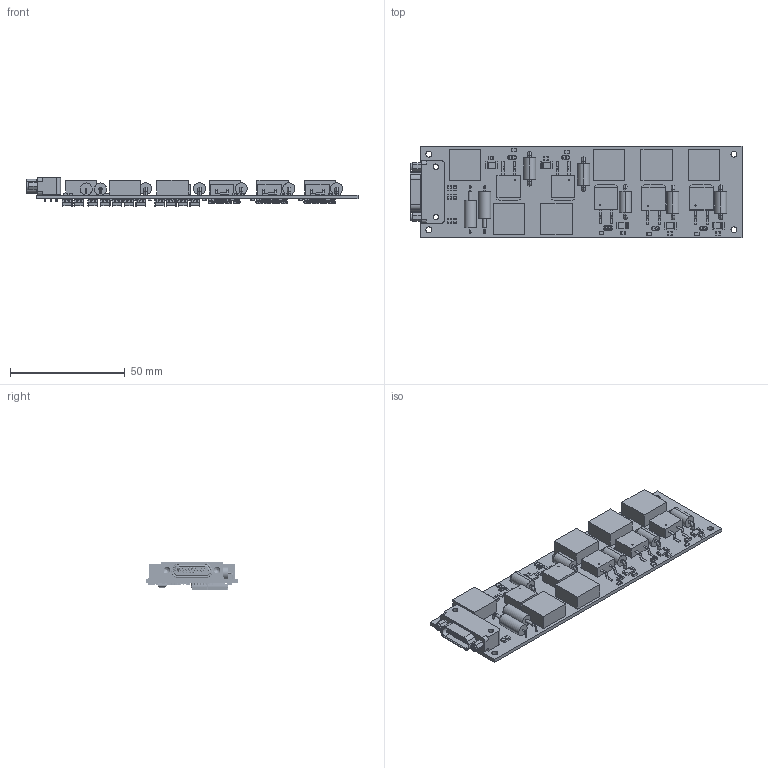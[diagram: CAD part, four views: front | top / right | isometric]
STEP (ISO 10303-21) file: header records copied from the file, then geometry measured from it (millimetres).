
FILE_DESCRIPTION(('Open CASCADE Model'),'2;1');
FILE_NAME('Open CASCADE Shape Model','2025-04-04T20:27:29',('Author'),( 'Open CASCADE'),'Open CASCADE STEP processor 7.5','Open CASCADE 7.5' ,'Unknown');
FILE_SCHEMA(('AUTOMOTIVE_DESIGN { 1 0 10303 214 1 1 1 1 }'));
Products named in the file (1): PCB
Bounding box: 144.74 x 40 x 12.6 mm (x, y, z)
Volume: 19979.3 mm3; surface area: 29195.4 mm2
Topology: 756 solids, 2084 shells, 10588 faces, 28215 edges, 20391 vertices
Faces by surface type: plane 7616, cylinder 1699, bspline 708, sphere 310, cone 133, torus 122
Full cylindrical faces by diameter (mm): 0.521 x5, 0.8 x4, 0.888 x21, 1.6 x10, 2.54 x2, 2.6 x4
Entity records: 355483 total; most frequent: CARTESIAN_POINT 81442, DIRECTION 50533, ORIENTED_EDGE 50106, EDGE_CURVE 27899, LINE 21439, VECTOR 21439, VERTEX_POINT 20248, AXIS2_PLACEMENT_3D 14547
